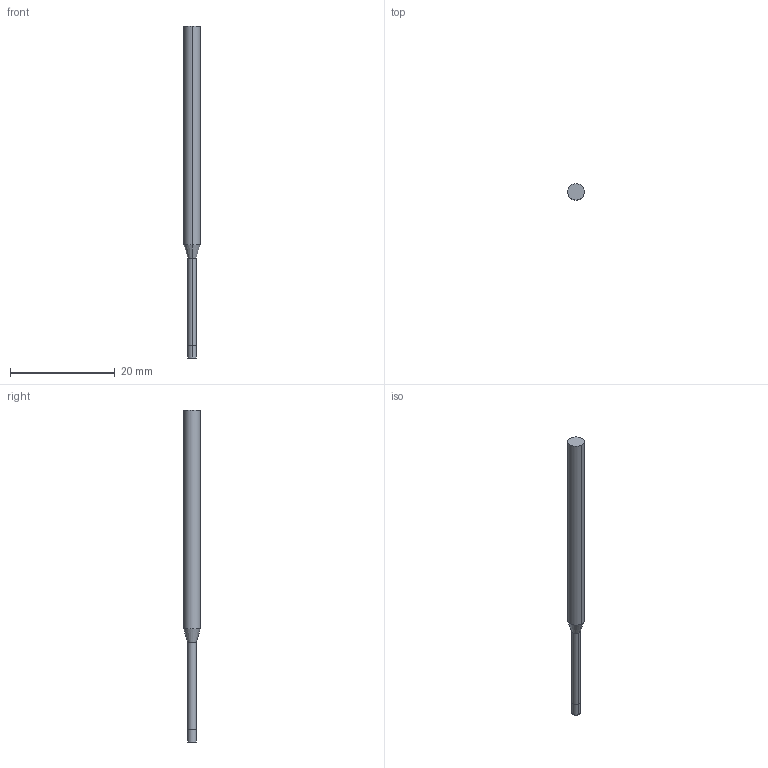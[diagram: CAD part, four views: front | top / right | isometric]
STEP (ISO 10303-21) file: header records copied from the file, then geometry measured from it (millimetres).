
FILE_DESCRIPTION((' '),'2;1');
FILE_NAME( '3MVS0625N12AH.stp', '2026-01-21T19:07:45', (' '), ('--- Datakit www.datakit.com---'), ' Datakit CrossCadWare V2025.4 Sep 19 2025', 'Mastercam 2027', ' ');
FILE_SCHEMA(('AUTOMOTIVE_DESIGN { 1 0 10303 214 1 1 1 1 }'));
Length unit declared in the file: inch
Products named in the file (1): 3MVS0625N12AH
Bounding box: 3.17 x 3.17 x 63.5 mm (x, y, z)
Volume: 381.1 mm3; surface area: 542.7 mm2
Topology: 1 solids, 1 shells, 10 faces, 18 edges, 10 vertices
Faces by surface type: cylinder 6, plane 2, cone 2
Entity records: 323 total; most frequent: DIRECTION 58, CARTESIAN_POINT 43, ORIENTED_EDGE 36, AXIS2_PLACEMENT_3D 25, EDGE_CURVE 18, VERTEX_POINT 10, CIRCLE 10, EDGE_LOOP 10
